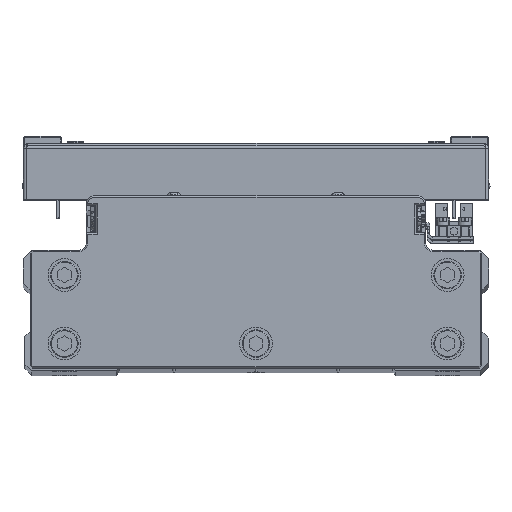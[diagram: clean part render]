
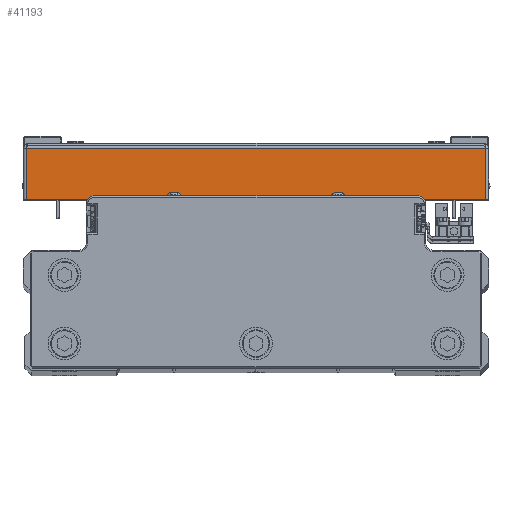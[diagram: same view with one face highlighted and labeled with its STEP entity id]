
A CAD part, top view. The second image highlights one B-rep face of the part: STEP entity #41193.
In plain terms, the highlighted planar face has unit normal (0, 0, 1) as drawn and (1, 0, 0) by its records, which use the part's own axes.
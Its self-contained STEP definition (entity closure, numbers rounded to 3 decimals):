
#376 = ORIENTED_EDGE ( 'NONE', *, *, #21846, .F. ) ;
#624 = LINE ( 'NONE', #14592, #27744 ) ;
#811 = CARTESIAN_POINT ( 'NONE',  ( 110., 19.5, -83.929 ) ) ;
#1959 = ORIENTED_EDGE ( 'NONE', *, *, #21376, .T. ) ;
#2022 = EDGE_CURVE ( 'NONE', #34276, #35947, #624, .T. ) ;
#4389 = CARTESIAN_POINT ( 'NONE',  ( 110., 1., 85. ) ) ;
#4701 = VECTOR ( 'NONE', #8119, 1000. ) ;
#5936 = CARTESIAN_POINT ( 'NONE',  ( 110., 0., 0. ) ) ;
#7137 = EDGE_LOOP ( 'NONE', ( #33939, #1959, #11608, #376 ) ) ;
#8119 = DIRECTION ( 'NONE',  ( 0., 1., 0. ) ) ;
#8166 = CARTESIAN_POINT ( 'NONE',  ( 110., 0., -83.929 ) ) ;
#8365 = EDGE_CURVE ( 'NONE', #45088, #37384, #35717, .T. ) ;
#10432 = CARTESIAN_POINT ( 'NONE',  ( 110., 19.5, 83.929 ) ) ;
#11608 = ORIENTED_EDGE ( 'NONE', *, *, #2022, .T. ) ;
#12449 = AXIS2_PLACEMENT_3D ( 'NONE', #5936, #19873, #33809 ) ;
#14162 = VECTOR ( 'NONE', #22097, 1000. ) ;
#14592 = CARTESIAN_POINT ( 'NONE',  ( 110., 19.5, 0. ) ) ;
#17686 = CARTESIAN_POINT ( 'NONE',  ( 110., 1., -83.929 ) ) ;
#18328 = DIRECTION ( 'NONE',  ( 0., 0., 1. ) ) ;
#19873 = DIRECTION ( 'NONE',  ( -1., 0., 0. ) ) ;
#21376 = EDGE_CURVE ( 'NONE', #45088, #34276, #39494, .T. ) ;
#21846 = EDGE_CURVE ( 'NONE', #37384, #35947, #25502, .T. ) ;
#22097 = DIRECTION ( 'NONE',  ( 0., 1., 0. ) ) ;
#23104 = VECTOR ( 'NONE', #18328, 1000. ) ;
#23313 = FACE_OUTER_BOUND ( 'NONE', #7137, .T. ) ;
#25502 = LINE ( 'NONE', #39444, #4701 ) ;
#27744 = VECTOR ( 'NONE', #28524, 1000. ) ;
#28524 = DIRECTION ( 'NONE',  ( 0., 0., 1. ) ) ;
#30266 = CARTESIAN_POINT ( 'NONE',  ( 110., 1., 83.929 ) ) ;
#33809 = DIRECTION ( 'NONE',  ( 0., -1., 0. ) ) ;
#33939 = ORIENTED_EDGE ( 'NONE', *, *, #8365, .F. ) ;
#34276 = VERTEX_POINT ( 'NONE', #811 ) ;
#35717 = LINE ( 'NONE', #4389, #23104 ) ;
#35947 = VERTEX_POINT ( 'NONE', #10432 ) ;
#37257 = PLANE ( 'NONE',  #12449 ) ;
#37384 = VERTEX_POINT ( 'NONE', #30266 ) ;
#39444 = CARTESIAN_POINT ( 'NONE',  ( 110., 0., 83.929 ) ) ;
#39494 = LINE ( 'NONE', #8166, #14162 ) ;
#41193 = ADVANCED_FACE ( 'NONE', ( #23313 ), #37257, .F. ) ;
#45088 = VERTEX_POINT ( 'NONE', #17686 ) ;
